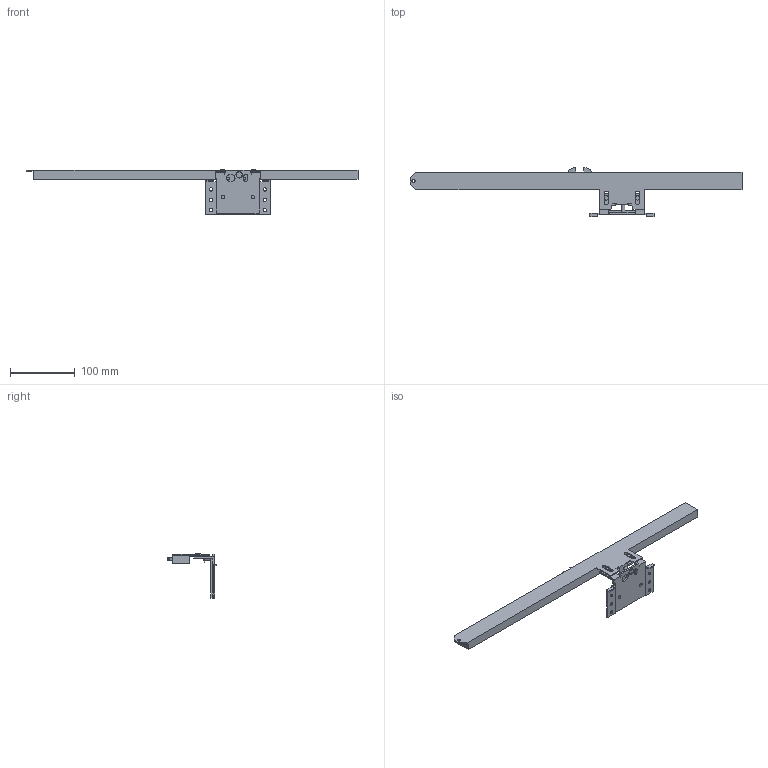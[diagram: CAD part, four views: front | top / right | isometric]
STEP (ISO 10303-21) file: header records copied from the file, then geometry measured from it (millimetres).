
FILE_DESCRIPTION(('STEP AP242'),'1');
FILE_NAME('OPO_51.047.53.stp','2026-03-17T13:41:00',(' '),(' '),'Spatial InterOp 3D',' ',' ');
FILE_SCHEMA(('AP242_MANAGED_MODEL_BASED_3D_ENGINEERING_MIM_LF {1 0 10303 442 1 1 4}'));
Length unit declared in the file: millimetre
Products named in the file (1): 1
Bounding box: 511.5 x 76 x 68 mm (x, y, z)
Volume: 184893.8 mm3; surface area: 89727.6 mm2
Topology: 9 solids, 9 shells, 257 faces, 670 edges, 444 vertices
Faces by surface type: plane 157, cylinder 100
Entity records: 10092 total; most frequent: DIRECTION 1402, CARTESIAN_POINT 1380, ORIENTED_EDGE 1340, EDGE_CURVE 670, LINE 470, VECTOR 470, AXIS2_PLACEMENT_3D 466, VERTEX_POINT 444
